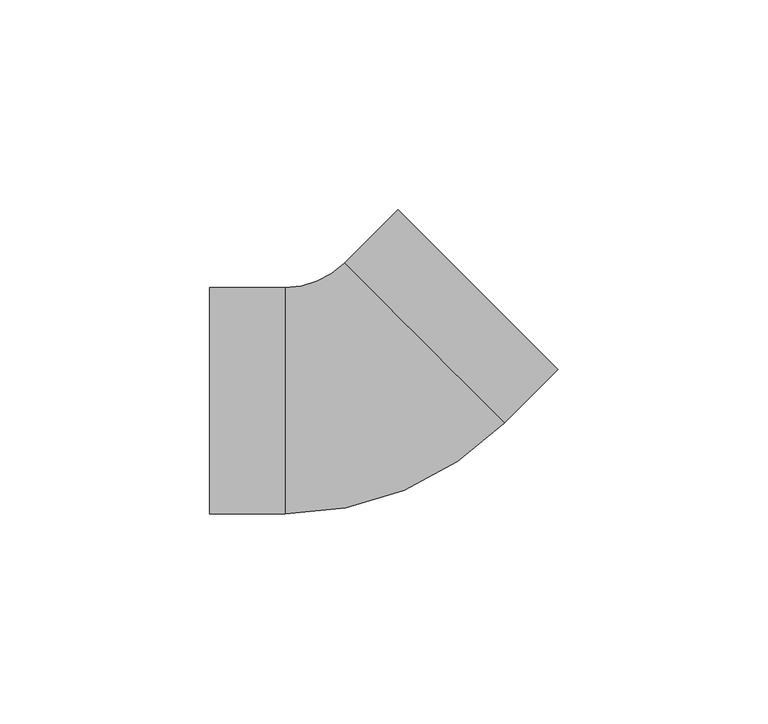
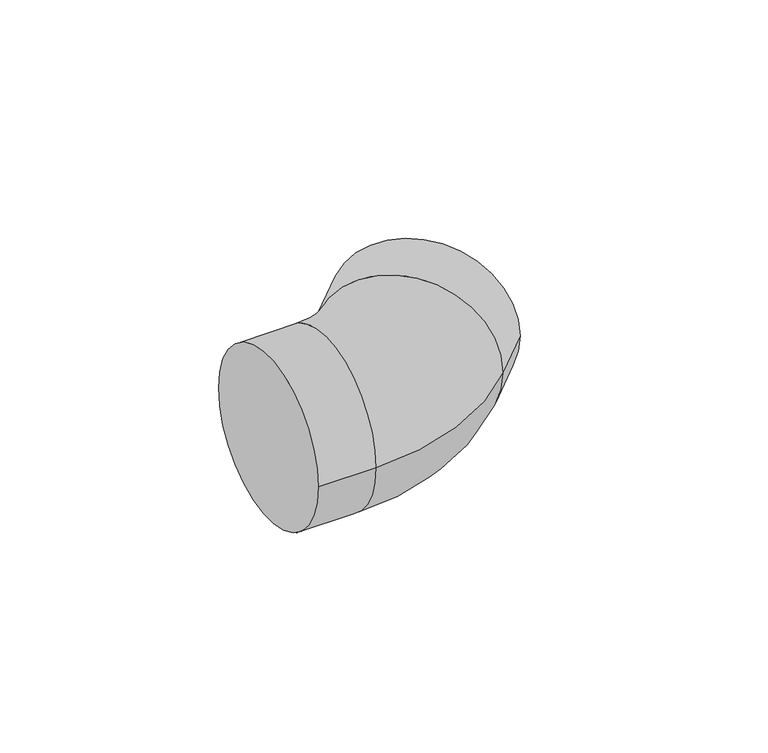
"""IFC4 building model written with IfcOpenShell, lengths in millimetres: pipe fitting geometry, PipeFitting_HTA_CPVC_Elbows : 40mm x 45°."""

from ifc_helpers import new_model, si_unit, point, frame, origin, place, context, project, spatial, circle_curve, ellipse_curve, trimmed, source, transform, mapped, element, save
from ifc_brep_helpers import plane_surface, cylinder_surface, revolved_surface, advanced_brep


def pipe_fitting_621492b6(model_context):
    return source(origin(), model_context, "Body", "AdvancedBrep", [
        advanced_brep(
        [(-37.5, -27.0, 0.0), (-37.5, 27.0, 0.0), (-19.4680374, -27.0, 0.0), (-19.4680374, 27.0, 0.0), (-5.3259018, 32.8578644, 0.0), (32.8578644, -5.3259018, 0.0), (45.6083874, 7.4246212, 0.0), (7.4246212, 45.6083874, 0.0)],
        [
            (0, 1, circle_curve(frame((-37.5, 0.0, 0.0), z_axis=(-1.0, 0.0, 0.0), x_axis=(0.0, 1.0, 0.0)), 27.0)),
            (1, 0, circle_curve(frame((-37.5, 0.0, 0.0), z_axis=(-1.0, 0.0, 0.0), x_axis=(0.0, 1.0, 0.0)), 27.0)),
            (0, 2),
            (2, 3, circle_curve(frame((-19.4680374, 0.0, 0.0), z_axis=(-1.0, 0.0, 0.0), x_axis=(0.0, 1.0, 0.0)), 27.0)),
            (3, 1),
            (3, 2, circle_curve(frame((-19.4680374, 0.0, 0.0), z_axis=(-1.0, 0.0, 0.0), x_axis=(0.0, 1.0, 0.0)), 27.0)),
            (4, 3, circle_curve(frame((-19.4680374, 47.0, 0.0), z_axis=(0.0, 0.0, -1.0), x_axis=(0.0, -1.0, 0.0)), 20.0)),
            (2, 5, circle_curve(frame((-19.4680374, 47.0, 0.0), z_axis=(0.0, 0.0, 1.0), x_axis=(0.0, -1.0, 0.0)), 74.0)),
            (5, 4, circle_curve(frame((13.7659813, 13.7659813, 0.0), z_axis=(-0.7071067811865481, -0.7071067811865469, 0.0), x_axis=(-0.7071067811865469, 0.7071067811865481, 0.0)), 27.0)),
            (4, 5, circle_curve(frame((13.7659813, 13.7659813, 0.0), z_axis=(-0.7071067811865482, -0.7071067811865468, 0.0), x_axis=(-0.7071067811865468, 0.7071067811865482, 0.0)), 27.0)),
            (6, 7, circle_curve(frame((26.5165043, 26.5165043, 0.0), z_axis=(0.707106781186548, 0.7071067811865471, 0.0), x_axis=(-0.7071067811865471, 0.707106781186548, 0.0)), 27.0)),
            (7, 6, circle_curve(frame((26.5165043, 26.5165043, 0.0), z_axis=(0.707106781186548, 0.7071067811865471, 0.0), x_axis=(-0.7071067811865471, 0.707106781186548, 0.0)), 27.0)),
            (5, 6),
            (7, 4),
        ],
        [
            plane_surface(frame((-37.5, 0.0, 0.0), z_axis=(-1.0, 0.0, 0.0), x_axis=(0.0, 0.0, 1.0))),
            cylinder_surface(frame((-37.5, 0.0, 0.0), z_axis=(-1.0, 0.0, 0.0), x_axis=(0.0, 1.0, 0.0)), 27.0),
            revolved_surface(trimmed(ellipse_curve(frame((-19.4680374, 0.0, 0.0), z_axis=(-1.0, 0.0, 0.0), x_axis=(0.0, 1.0, 0.0)), 27.0, 27.0), [point((-19.4680374, -27.0, 0.0))], [point((-19.4680374, 27.0, 0.0))], True, "CARTESIAN"), (-19.4680374, 47.0, 0.0), (0.0, 0.0, 1.0)),
            revolved_surface(trimmed(ellipse_curve(frame((-19.4680374, 0.0, 0.0), z_axis=(-1.0, 0.0, 0.0), x_axis=(0.0, 1.0, 0.0)), 27.0, 27.0), [point((-19.4680374, 27.0, 0.0))], [point((-19.4680374, -27.0, 0.0))], True, "CARTESIAN"), (-19.4680374, 47.0, 0.0), (0.0, 0.0, 1.0)),
            plane_surface(frame((26.5165043, 26.5165043, 0.0), z_axis=(0.707106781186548, 0.7071067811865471, 0.0), x_axis=(0.0, 0.0, 1.0))),
            cylinder_surface(frame((13.7659813, 13.7659813, 0.0), z_axis=(-0.707106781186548, -0.7071067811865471, 0.0), x_axis=(-0.7071067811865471, 0.707106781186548, 0.0)), 27.0),
        ],
        [
            (0, [[1, 2]]),
            (1, [[-1, 3, 4, 5]]),
            (1, [[-2, -5, 6, -3]]),
            (2, [[7, -4, 8, 9]]),
            (3, [[-8, -6, -7, 10]]),
            (4, [[11, 12]]),
            (5, [[-9, 13, -12, 14]]),
            (5, [[-10, -14, -11, -13]]),
        ],
    ),
    ])


if __name__ == "__main__":
    model = new_model("IFC4")
    model_context = context("Model", 3, world=origin())
    ifc_project = project(units=[si_unit("LENGTHUNIT", "METRE", prefix="MILLI")], contexts=[model_context])
    site = spatial("IfcSite", under=ifc_project)
    building = spatial("IfcBuilding", under=site)
    placement = place(None, origin())
    pipe_fitting_shape = pipe_fitting_621492b6(model_context)
    element("IfcPipeFitting", 1, ObjectType="PipeFitting_HTA_CPVC_Elbows : 40mm x 45°", at=placement, inside=building, context=model_context, shape_type="MappedRepresentation", body=[
        mapped(pipe_fitting_shape, transform((0.0, 0.0, 0.0), x_axis=(1.0, 0.0, 0.0), y_axis=(0.0, 1.0, 0.0), z_axis=(0.0, 0.0, 1.0))),
    ])
    save(model, "model.ifc")
